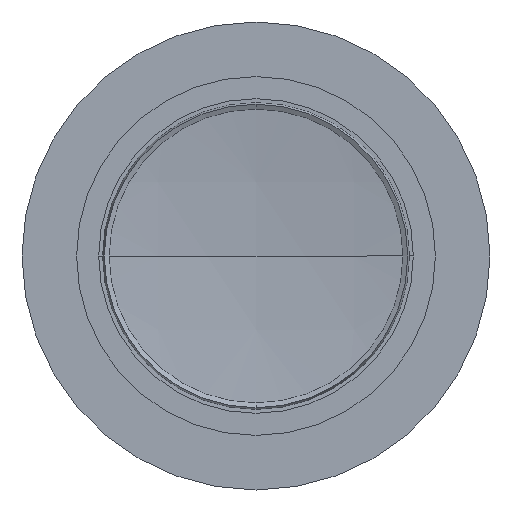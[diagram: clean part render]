
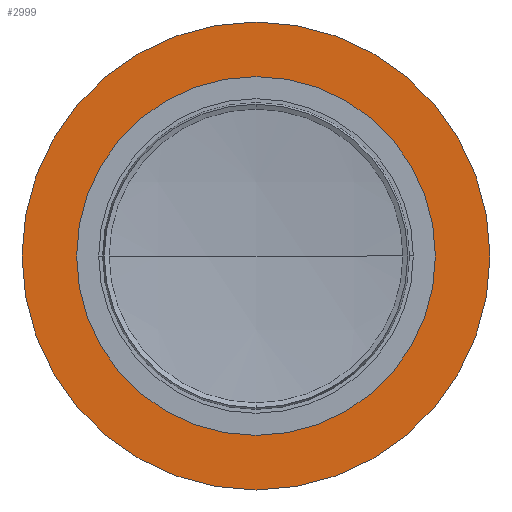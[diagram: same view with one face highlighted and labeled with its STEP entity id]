
A CAD part, front view. The second image highlights one B-rep face of the part: STEP entity #2999.
In plain terms, the highlighted planar face has unit normal (0, -1, 0).
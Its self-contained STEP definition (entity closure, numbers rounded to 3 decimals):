
#162 = AXIS2_PLACEMENT_3D ( 'NONE', #1959, #3006, #1441 ) ;
#202 = FACE_OUTER_BOUND ( 'NONE', #2182, .T. ) ;
#203 = ORIENTED_EDGE ( 'NONE', *, *, #1842, .T. ) ;
#342 = CARTESIAN_POINT ( 'NONE',  ( 3.051, -0.451, 0. ) ) ;
#348 = EDGE_CURVE ( 'NONE', #522, #929, #1032, .T. ) ;
#411 = EDGE_LOOP ( 'NONE', ( #203, #1759 ) ) ;
#453 = CARTESIAN_POINT ( 'NONE',  ( 2.339, -0.451, 0. ) ) ;
#522 = VERTEX_POINT ( 'NONE', #2855 ) ;
#623 = DIRECTION ( 'NONE',  ( -1., 0., 0. ) ) ;
#644 = DIRECTION ( 'NONE',  ( 0., 1., 0. ) ) ;
#671 = PLANE ( 'NONE',  #162 ) ;
#873 = VERTEX_POINT ( 'NONE', #1426 ) ;
#929 = VERTEX_POINT ( 'NONE', #342 ) ;
#974 = AXIS2_PLACEMENT_3D ( 'NONE', #3308, #3032, #623 ) ;
#1005 = CARTESIAN_POINT ( 'NONE',  ( 0., -0.451, 0. ) ) ;
#1032 = CIRCLE ( 'NONE', #974, 3.051 ) ;
#1090 = CIRCLE ( 'NONE', #1800, 2.339 ) ;
#1397 = CARTESIAN_POINT ( 'NONE',  ( 0., -0.451, 0. ) ) ;
#1426 = CARTESIAN_POINT ( 'NONE',  ( -2.339, -0.451, 0. ) ) ;
#1441 = DIRECTION ( 'NONE',  ( -1., 0., 0. ) ) ;
#1657 = DIRECTION ( 'NONE',  ( -1., 0., 0. ) ) ;
#1666 = ORIENTED_EDGE ( 'NONE', *, *, #348, .F. ) ;
#1759 = ORIENTED_EDGE ( 'NONE', *, *, #2453, .T. ) ;
#1800 = AXIS2_PLACEMENT_3D ( 'NONE', #1397, #3239, #1657 ) ;
#1817 = DIRECTION ( 'NONE',  ( 0., 1., 0. ) ) ;
#1842 = EDGE_CURVE ( 'NONE', #873, #2154, #3027, .T. ) ;
#1959 = CARTESIAN_POINT ( 'NONE',  ( 2.339, -0.451, 0. ) ) ;
#2154 = VERTEX_POINT ( 'NONE', #453 ) ;
#2182 = EDGE_LOOP ( 'NONE', ( #1666, #2449 ) ) ;
#2197 = CARTESIAN_POINT ( 'NONE',  ( 0., -0.451, 0. ) ) ;
#2449 = ORIENTED_EDGE ( 'NONE', *, *, #2963, .F. ) ;
#2453 = EDGE_CURVE ( 'NONE', #2154, #873, #1090, .T. ) ;
#2458 = DIRECTION ( 'NONE',  ( -1., 0., 0. ) ) ;
#2490 = AXIS2_PLACEMENT_3D ( 'NONE', #2197, #644, #2458 ) ;
#2822 = AXIS2_PLACEMENT_3D ( 'NONE', #1005, #1817, #3381 ) ;
#2855 = CARTESIAN_POINT ( 'NONE',  ( -3.051, -0.451, 0. ) ) ;
#2895 = FACE_BOUND ( 'NONE', #411, .T. ) ;
#2963 = EDGE_CURVE ( 'NONE', #929, #522, #2971, .T. ) ;
#2971 = CIRCLE ( 'NONE', #2490, 3.051 ) ;
#2999 = ADVANCED_FACE ( 'NONE', ( #202, #2895 ), #671, .F. ) ;
#3006 = DIRECTION ( 'NONE',  ( 0., 1., 0. ) ) ;
#3027 = CIRCLE ( 'NONE', #2822, 2.339 ) ;
#3032 = DIRECTION ( 'NONE',  ( 0., 1., 0. ) ) ;
#3239 = DIRECTION ( 'NONE',  ( 0., 1., 0. ) ) ;
#3308 = CARTESIAN_POINT ( 'NONE',  ( 0., -0.451, 0. ) ) ;
#3381 = DIRECTION ( 'NONE',  ( -1., 0., 0. ) ) ;
